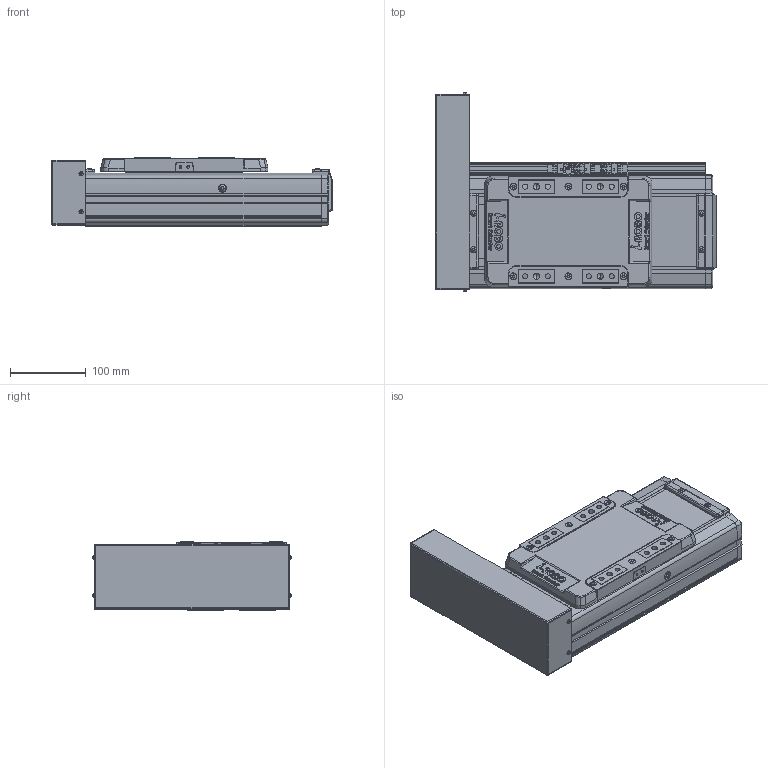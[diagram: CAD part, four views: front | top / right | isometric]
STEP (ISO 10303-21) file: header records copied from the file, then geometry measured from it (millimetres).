
FILE_DESCRIPTION(('STEP AP214'),'1');
FILE_NAME('Z:/Web/3D/SAN150/2013.04 (STP.)/SAN150ㅁㅁ-50PL+3SL.stp','2013-05-08T03:00:04',(' '),(' '),'Spatial InterOp 3D',' ',' ');
FILE_SCHEMA(('automotive_design'));
Length unit declared in the file: millimetre
Products named in the file (56): SLBL-SAN150; SLCV-SAN150; FHCS M4.0 x 8.0; BHCS M4.0 x 10.0; SFX-SAN150; RRCV-SAN150; FRBL-SAN150; Spacer; RN15; FRCV-SAN150; Screw 20; BASE-SAN150-000L ; SUS COVER; 스크루 : Round - M5.0 x 6.0; BHCS M3.0 x 6.0; P; M3.0 x 6.0; SRL-16x17-360L; SGD-SAN150; EE-SX674; SBK-SX674-352; 스크루 : Round - M3.0 x 6.0
Bounding box: 370 x 260.73 x 90 mm (x, y, z)
Volume: 3520098.7 mm3; surface area: 609926.5 mm2
Topology: 56 solids, 56 shells, 2472 faces, 6355 edges, 4092 vertices
Faces by surface type: plane 1356, cylinder 777, cone 230, sphere 76, bspline 21, torus 12
Entity records: 97312 total; most frequent: CARTESIAN_POINT 14969, DIRECTION 13412, ORIENTED_EDGE 12518, EDGE_CURVE 6259, AXIS2_PLACEMENT_3D 4710, VERTEX_POINT 4092, LINE 3992, VECTOR 3992
